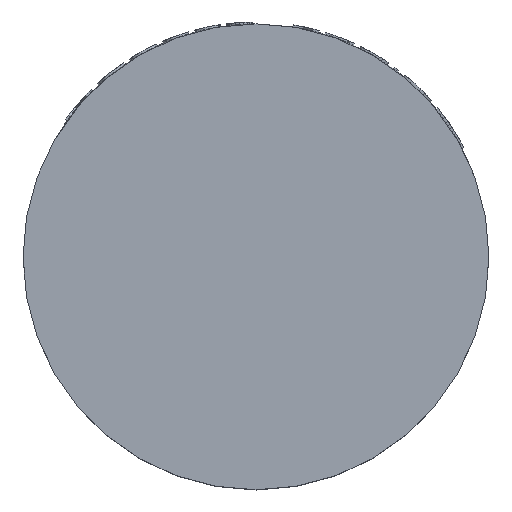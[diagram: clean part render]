
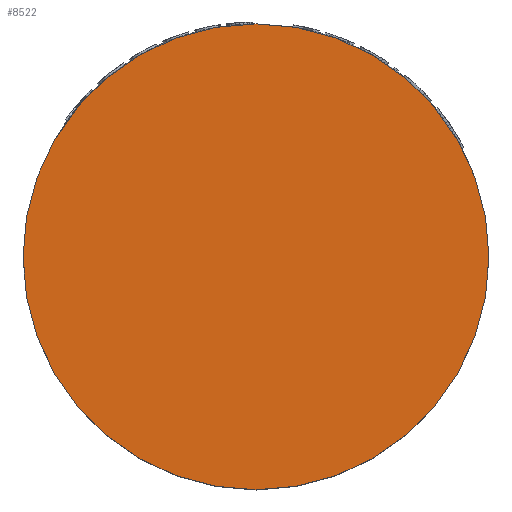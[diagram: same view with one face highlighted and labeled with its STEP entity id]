
A CAD part, top view. The second image highlights one B-rep face of the part: STEP entity #8522.
In plain terms, the highlighted planar face has unit normal (0, 0, 1).
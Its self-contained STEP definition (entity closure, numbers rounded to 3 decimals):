
#1=CARTESIAN_POINT('',(0.,0.,10.5));
#2=DIRECTION('',(0.,0.,1.));
#3=DIRECTION('',(1.,0.,0.));
#4=AXIS2_PLACEMENT_3D('',#1,#2,#3);
#6=CARTESIAN_POINT('',(0.,0.,10.5));
#7=DIRECTION('',(0.,0.,1.));
#8=DIRECTION('',(-1.,0.,0.));
#9=AXIS2_PLACEMENT_3D('',#6,#7,#8);
#7318=CARTESIAN_POINT('',(36.75,0.,10.5));
#7319=CARTESIAN_POINT('',(-36.75,0.,10.5));
#7320=VERTEX_POINT('',#7318);
#7321=VERTEX_POINT('',#7319);
#8511=CARTESIAN_POINT('',(0.,0.,10.5));
#8512=DIRECTION('',(0.,0.,1.));
#8513=DIRECTION('',(1.,0.,0.));
#8514=AXIS2_PLACEMENT_3D('',#8511,#8512,#8513);
#8515=PLANE('',#8514);
#8517=ORIENTED_EDGE('',*,*,#8516,.F.);
#8519=ORIENTED_EDGE('',*,*,#8518,.F.);
#8520=EDGE_LOOP('',(#8517,#8519));
#8521=FACE_OUTER_BOUND('',#8520,.F.);
#8522=ADVANCED_FACE('',(#8521),#8515,.T.);
#5=CIRCLE('',#4,36.75);
#10=CIRCLE('',#9,36.75);
#8516=EDGE_CURVE('',#7320,#7321,#5,.T.);
#8518=EDGE_CURVE('',#7321,#7320,#10,.T.);
